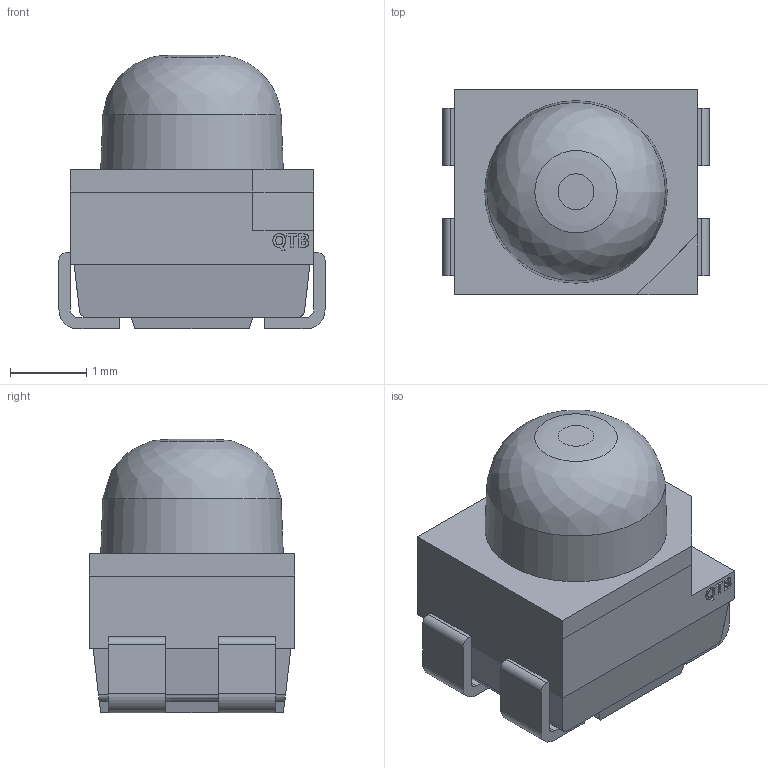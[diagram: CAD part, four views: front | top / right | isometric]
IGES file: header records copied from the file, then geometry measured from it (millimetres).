
Start section: Data from Parasolid IGES Translator 23.1.110, Copyright(c) 2006 Siemens PLM Software. All Rights Reserved.
Global section: file name: 5fab11d91c17e90e8914fdd7.iges; native system: By Siemens PLM Incorporated; preprocessor: XPlus GENERIC/IGES 23.1.110; author: Noname; organization: Noname; date: 20201110.221906; units: metre
Bounding box: 3.5 x 2.7 x 3.6 mm (x, y, z)
Surface area: 102.6 mm2 (no closed solid volume)
Topology: 0 solids, 0 shells, 148 faces, 790 edges, 778 vertices
Faces by surface type: extrusion 127, revolution 21
